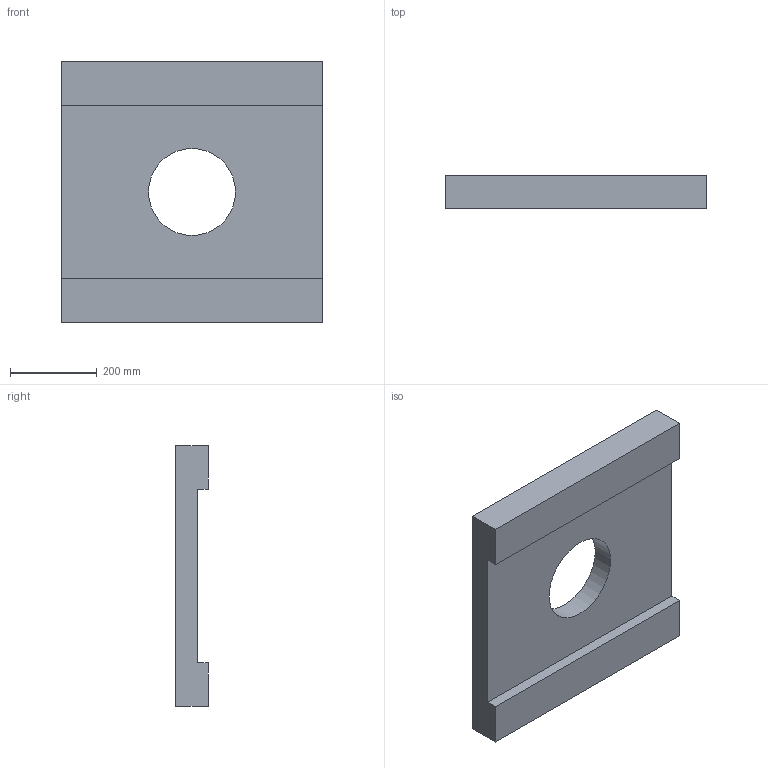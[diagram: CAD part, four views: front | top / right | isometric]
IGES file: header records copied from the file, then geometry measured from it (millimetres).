
Start section: START RECORD GO HERE.
Global section: file name: axe-X.igs; native system: IBM CATIA IGES - CATIA Version 5 Release 10 ; preprocessor: CATIA Version 5 Release 10 ; date: 20030711.094104; units: millimetre
Bounding box: 600 x 75 x 600 mm (x, y, z)
Surface area: 878298.1 mm2 (no closed solid volume)
Topology: 0 solids, 0 shells, 12 faces, 60 edges, 60 vertices
Faces by surface type: plane 10, revolution 2
